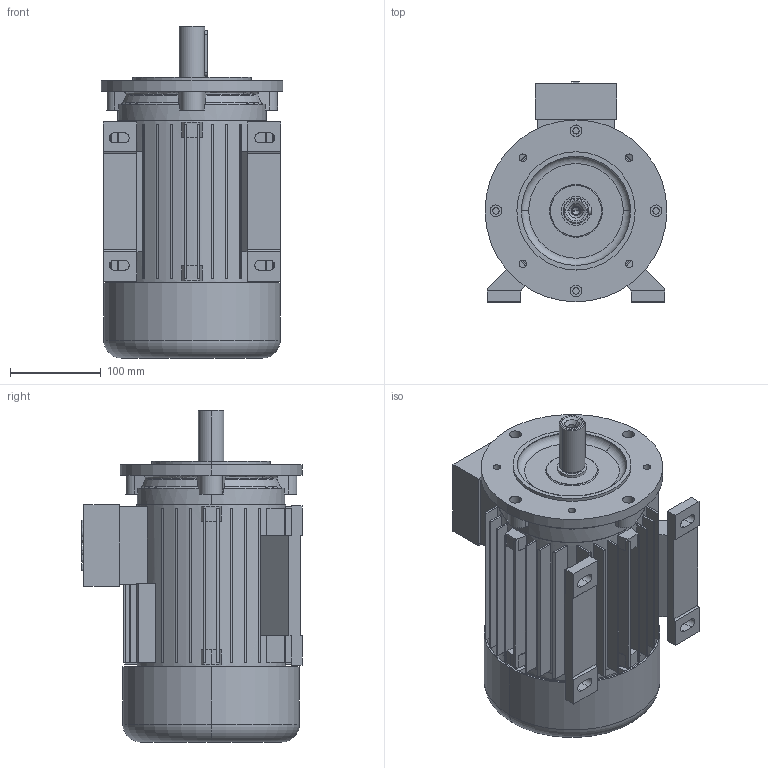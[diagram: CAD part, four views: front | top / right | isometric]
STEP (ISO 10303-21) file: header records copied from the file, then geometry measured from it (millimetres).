
FILE_DESCRIPTION (( 'STEP AP214' ), '1' );
FILE_NAME ('20.18273-E 5AZ 100 B34F165 STANDK.STEP', '2018-02-22T08:29:56', ( '' ), ( '' ), 'SwSTEP 2.0', 'SolidWorks 2017', '' );
FILE_SCHEMA (( 'AUTOMOTIVE_DESIGN' ));
Length unit declared in the file: millimetre
Products named in the file (1): 20.18273-E 5AZ 100 B34F165 STANDK
Bounding box: 200 x 242 x 365 mm (x, y, z)
Volume: 3686528.5 mm3; surface area: 1156177.4 mm2
Topology: 8 solids, 8 shells, 782 faces, 2042 edges, 1347 vertices
Faces by surface type: plane 520, cylinder 201, cone 26, torus 26, bspline 9
Entity records: 31972 total; most frequent: CARTESIAN_POINT 4675, DIRECTION 4206, ORIENTED_EDGE 4080, EDGE_CURVE 2040, AXIS2_PLACEMENT_3D 1454, VERTEX_POINT 1347, VECTOR 1298, LINE 1298
